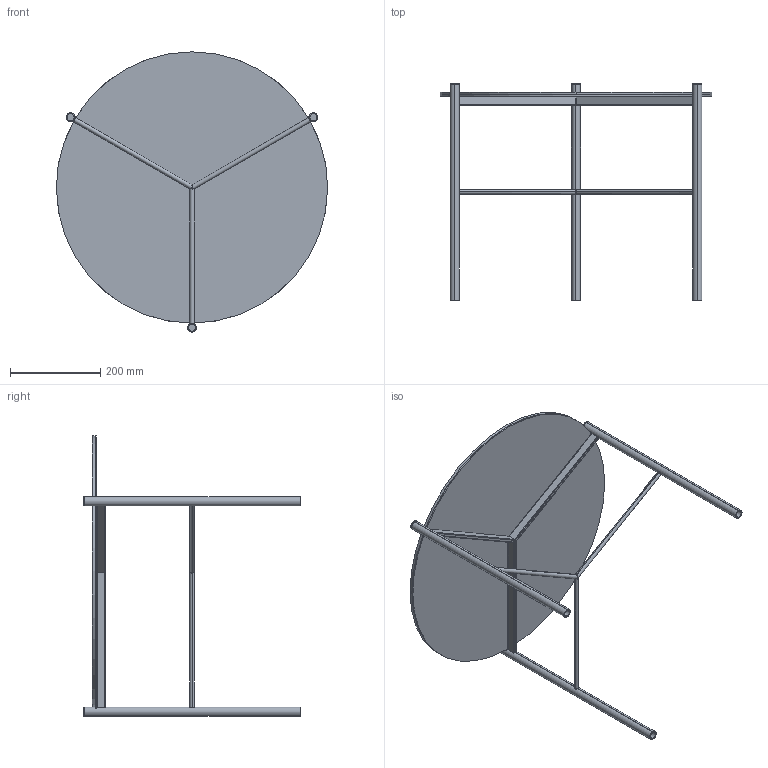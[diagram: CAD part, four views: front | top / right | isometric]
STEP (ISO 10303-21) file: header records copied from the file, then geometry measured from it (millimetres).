
FILE_DESCRIPTION (( 'STEP AP203' ), '1' );
FILE_NAME ('J301G.STEP', '2024-08-06T11:32:07', ( '' ), ( '' ), 'SwSTEP 2.0', 'SolidWorks 2022', '' );
FILE_SCHEMA (( 'CONFIG_CONTROL_DESIGN' ));
Length unit declared in the file: millimetre
Products named in the file (3): J301G; C1XCRMXX-00-piani Rotondi Cristallo_C01 D.60cm; JXXXS00000000-00-jack metallo grezzo tutte le misure_J301S00000000-JACK TAVOLINO D.60x46h<A macchina>
Assembly tree (2 placements, depth 2):
  J301G
    JXXXS00000000-00-jack metallo grezzo tutte le misure_J301S00000000-JACK TAVOLINO D.60x46h<A macchina>
    C1XCRMXX-00-piani Rotondi Cristallo_C01 D.60cm
Bounding box: 600 x 479 x 620.07 mm (x, y, z)
Volume: 2779120.3 mm3; surface area: 1454621.1 mm2
Topology: 14 solids, 14 shells, 125 faces, 293 edges, 194 vertices
Faces by surface type: cylinder 73, plane 52
Entity records: 4516 total; most frequent: CARTESIAN_POINT 1449, ORIENTED_EDGE 586, DIRECTION 541, EDGE_CURVE 293, AXIS2_PLACEMENT_3D 196, VERTEX_POINT 194, VECTOR 149, LINE 149
